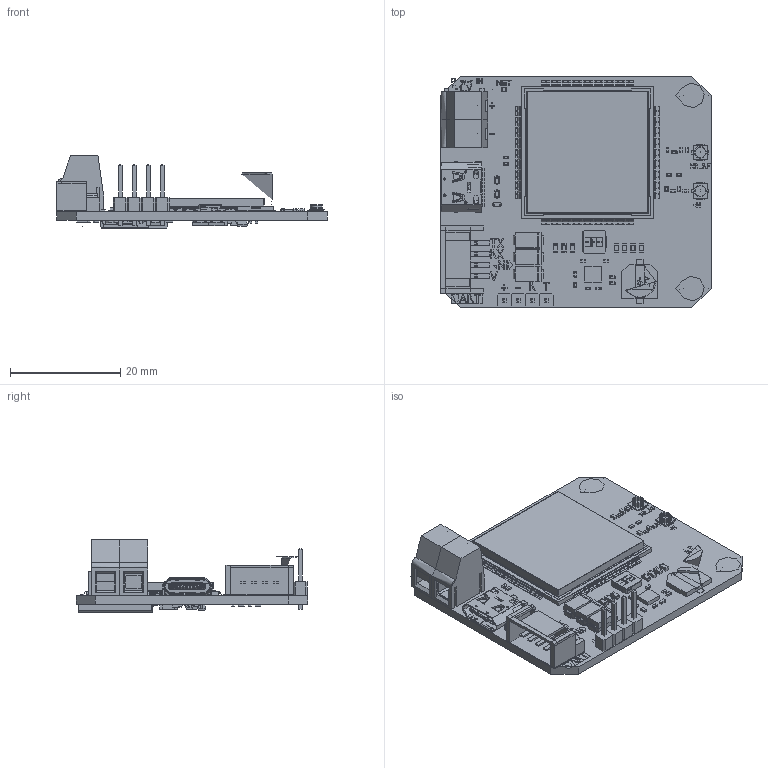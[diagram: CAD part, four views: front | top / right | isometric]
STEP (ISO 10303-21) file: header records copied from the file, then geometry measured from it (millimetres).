
FILE_DESCRIPTION(/* description */ (''),/* implementation_level */ '2;1');
FILE_NAME(/* name */ 'TEL018~1',/* time_stamp */ '2024-08-30T14:07:51+08:00',/* author */ (''),/* organization */ (''),/* preprocessor_version */ 'ST-DEVELOPER v16.5',/* originating_system */ '',/* authorisation */ '');
FILE_SCHEMA (('CONFIG_CONTROL_DESIGN'));
Products named in the file (1): Document
Bounding box: 49 x 42 x 13.12 mm (x, y, z)
Volume: 5609.1 mm3; surface area: 11646 mm2
Topology: 353 solids, 632 shells, 9888 faces, 35704 edges, 25637 vertices
Faces by surface type: plane 6141, cylinder 1958, bspline 1789
Full cylindrical faces by diameter (mm): 0.4 x2, 0.5 x26, 0.6 x2, 0.65 x2, 0.75 x2, 0.9 x4, 1 x2, 3 x2, 3.4 x2, 3.5 x2, 6 x6
Entity records: 351884 total; most frequent: CARTESIAN_POINT 149179, ORIENTED_EDGE 47562, EDGE_CURVE 24863, B_SPLINE_CURVE_WITH_KNOTS 19660, VERTEX_POINT 16097, DIRECTION 13664, EDGE_LOOP 10353, ADVANCED_FACE 9886
